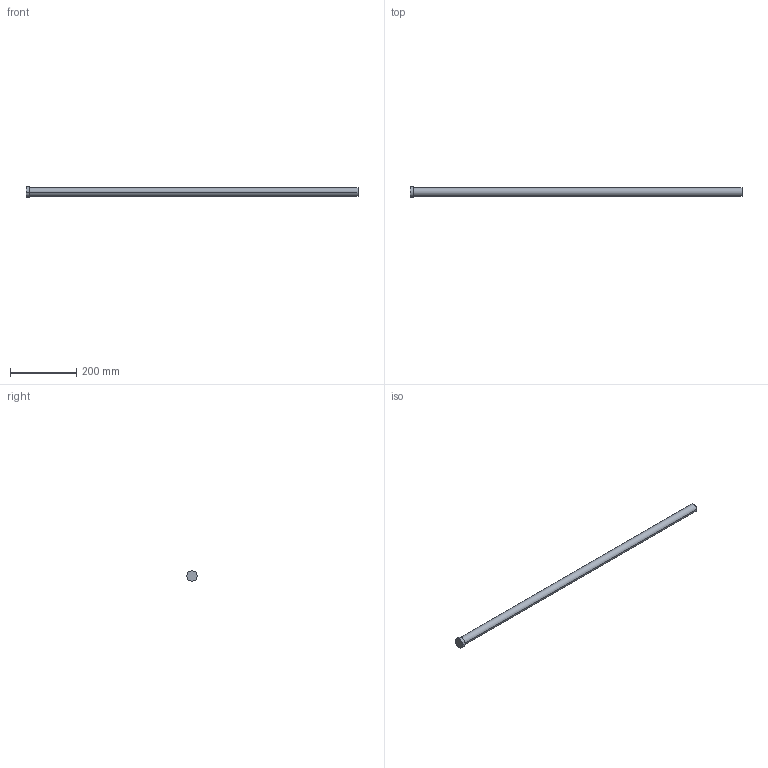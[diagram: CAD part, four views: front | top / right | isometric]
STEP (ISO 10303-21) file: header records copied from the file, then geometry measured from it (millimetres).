
FILE_DESCRIPTION (( 'STEP AP203' ), '1' );
FILE_NAME ('A-25x1000.STEP', '2020-05-29T16:28:34', ( 'August' ), ( '' ), 'SwSTEP 2.0', 'SolidWorks 2018', '' );
FILE_SCHEMA (( 'CONFIG_CONTROL_DESIGN' ));
Length unit declared in the file: millimetre
Products named in the file (1): A-25x1000
Bounding box: 1000 x 32 x 32 mm (x, y, z)
Volume: 494024.7 mm3; surface area: 80335 mm2
Topology: 1 solids, 1 shells, 9 faces, 16 edges, 10 vertices
Faces by surface type: cylinder 4, plane 3, torus 2
Entity records: 303 total; most frequent: DIRECTION 48, CARTESIAN_POINT 36, ORIENTED_EDGE 32, AXIS2_PLACEMENT_3D 22, EDGE_CURVE 16, CIRCLE 12, EDGE_LOOP 10, VERTEX_POINT 10
